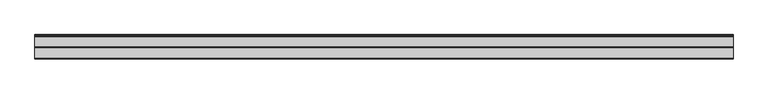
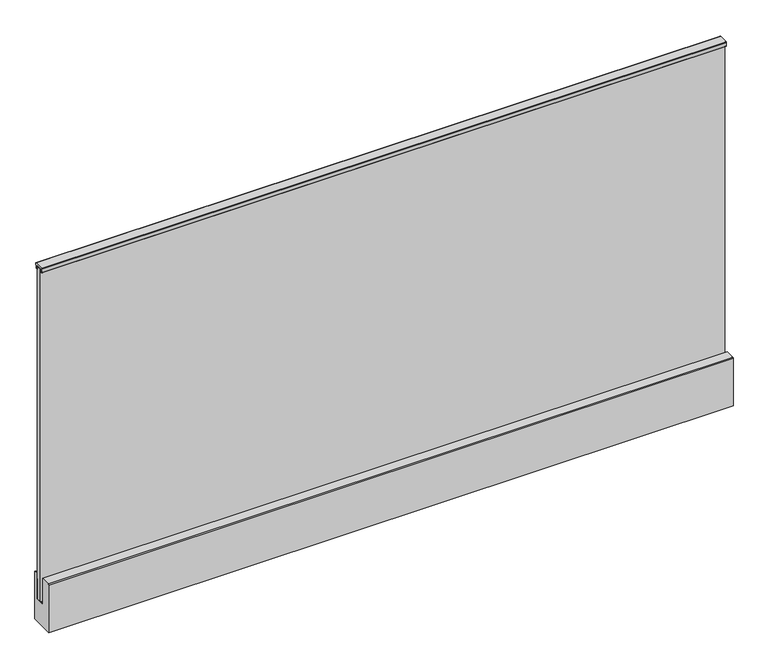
"""IFC4 building model written with IfcOpenShell, lengths in millimetres: railing geometry, Glass Railing (8+8) - Faraone - Ninfa 176 - Wall mounted - Trapez Handrail 30."""

from ifc_helpers import new_model, si_unit, point, frame, frame_2d, origin, place, context, project, spatial, polyline, circle_curve, trimmed, segment, composite_curve, outline, extrude, source, transform, mapped, element, save


def railing_5e898a5a(model_context):
    return source(origin(), model_context, "Body", "SweptSolid", [
        extrude(outline(composite_curve([segment(trimmed(circle_curve(frame_2d((-4478.8974347, 1105.3563017)), 2.156317), [point((-4478.8974347, 1107.5126187))], [point((-4476.7622687, 1105.0550222))], False, "CARTESIAN"), True, "CONTINUOUS"), segment(polyline([(-4476.7622687, 1105.0550222), (-4478.738108, 1091.0522601)]), True, "CONTINUOUS"), segment(trimmed(circle_curve(frame_2d((-4480.1564512, 1091.2523933)), 1.4323933), [point((-4478.738108, 1091.0522601))], [point((-4480.1564512, 1089.82))], False, "CARTESIAN"), True, "CONTINUOUS"), segment(polyline([(-4480.1564512, 1089.82), (-4481.8544022, 1089.82), (-4481.8544022, 1102.5586855), (-4507.3544022, 1102.5586855), (-4507.3544022, 1089.82), (-4509.0523533, 1089.82)]), True, "CONTINUOUS"), segment(trimmed(circle_curve(frame_2d((-4509.0523533, 1091.2523933)), 1.4323933), [point((-4509.0523533, 1089.82))], [point((-4510.4706964, 1091.0522601))], False, "CARTESIAN"), True, "CONTINUOUS"), segment(polyline([(-4510.4706964, 1091.0522601), (-4512.4465357, 1105.0550222)]), True, "CONTINUOUS"), segment(trimmed(circle_curve(frame_2d((-4510.3113698, 1105.3563017)), 2.156317), [point((-4512.4465357, 1105.0550222))], [point((-4510.3113698, 1107.5126187))], False, "CARTESIAN"), True, "CONTINUOUS"), segment(polyline([(-4510.3113698, 1107.5126187), (-4478.8974347, 1107.5126187)]), True, "CONTINUOUS")], self_intersect=False)), frame((4362.6376845, 0.0, 0.0), z_axis=(1.0, 0.0, 0.0), x_axis=(0.0, 1.0, 0.0)), (0.0, 0.0, 1.0), 2320.0),
        extrude(outline(polyline([(-4486.1744022, -92.36), (-4502.9744022, -92.36), (-4502.9744022, 1100.56), (-4495.0744022, 1100.56), (-4495.0744022, -91.56), (-4494.0744022, -91.56), (-4494.0744022, 1100.56), (-4486.1744022, 1100.56), (-4486.1744022, -92.36)])), frame((4362.6376845, 0.0, 0.0), z_axis=(1.0, 0.0, 0.0), x_axis=(0.0, 1.0, 0.0)), (0.0, 0.0, 1.0), 2320.0),
        extrude(outline(composite_curve([segment(trimmed(circle_curve(frame_2d((-4474.3018327, -3.1212327)), 3.1206002), [point((-4474.3018327, -0.0006325))], [point((-4471.1812325, -3.1212327))], False, "CARTESIAN"), True, "CONTINUOUS"), segment(polyline([(-4471.1812325, -3.1212327), (-4471.1812325, -173.21), (-4551.5247659, -173.21), (-4551.5247659, -3.0621312)]), True, "CONTINUOUS"), segment(trimmed(circle_curve(frame_2d((-4548.4632672, -3.0621312)), 3.0614987), [point((-4551.5247659, -3.0621312))], [point((-4548.4632672, -0.0006325))], False, "CARTESIAN"), True, "CONTINUOUS"), segment(polyline([(-4548.4632672, -0.0006325), (-4515.9825313, -0.0006325), (-4515.9825313, -95.3393625), (-4484.2062732, -95.3393625), (-4484.2062732, -0.0006325), (-4474.3018327, -0.0006325)]), True, "CONTINUOUS")], self_intersect=False)), frame((4362.6376845, 0.0, 0.0), z_axis=(1.0, 0.0, 0.0), x_axis=(0.0, 1.0, 0.0)), (0.0, 0.0, 1.0), 2320.0),
        extrude(outline(polyline([(-4484.2024874, -95.34), (-4507.686317, -95.34), (-4507.686317, -92.3609041), (-4486.1764355, -92.3609041), (-4486.1764355, -20.1108016), (-4484.2024874, -20.1108016), (-4484.2024874, -95.34)])), frame((4362.6376845, 0.0, 0.0), z_axis=(1.0, 0.0, 0.0), x_axis=(0.0, 1.0, 0.0)), (0.0, 0.0, 1.0), 2320.0),
        extrude(outline(polyline([(4362.6376845, -4486.2544022), (4362.6376845, -4481.8544022), (6682.6376845, -4481.8544022), (6682.6376845, -4486.2544022), (4362.6376845, -4486.2544022)])), frame((0.0, 0.0, 1089.82), z_axis=(0.0, 0.0, 1.0), x_axis=(1.0, 0.0, 0.0)), (0.0, 0.0, 1.0), 10.74),
        extrude(outline(polyline([(4362.6376845, -4507.3744022), (4362.6376845, -4502.9744022), (6682.6376845, -4502.9744022), (6682.6376845, -4507.3744022), (4362.6376845, -4507.3744022)])), frame((0.0, 0.0, 1089.82), z_axis=(0.0, 0.0, 1.0), x_axis=(1.0, 0.0, 0.0)), (0.0, 0.0, 1.0), 10.74),
        extrude(outline(polyline([(4362.6376845, -4505.2744022), (4362.6376845, -4483.7744022), (6682.6376845, -4483.7744022), (6682.6376845, -4505.2744022), (4362.6376845, -4505.2744022)])), frame((0.0, 0.0, 1100.56), z_axis=(0.0, 0.0, 1.0), x_axis=(1.0, 0.0, 0.0)), (0.0, 0.0, 1.0), 2.0),
    ])


if __name__ == "__main__":
    model = new_model("IFC4")
    model_context = context("Model", 3, world=origin())
    ifc_project = project(units=[si_unit("LENGTHUNIT", "METRE", prefix="MILLI")], contexts=[model_context])
    site = spatial("IfcSite", under=ifc_project)
    building = spatial("IfcBuilding", under=site)
    placement = place(None, origin())
    railing_shape = railing_5e898a5a(model_context)
    element("IfcRailing", 1, ObjectType="Glass Railing (8+8) - Faraone - Ninfa 176 - Wall mounted - Trapez Handrail 30", at=placement, inside=building, context=model_context, shape_type="MappedRepresentation", body=[
        mapped(railing_shape, transform((0.0, 0.0, 0.0), x_axis=(1.0, 0.0, 0.0), y_axis=(0.0, 1.0, 0.0), z_axis=(0.0, 0.0, 1.0))),
    ])
    save(model, "model.ifc")
